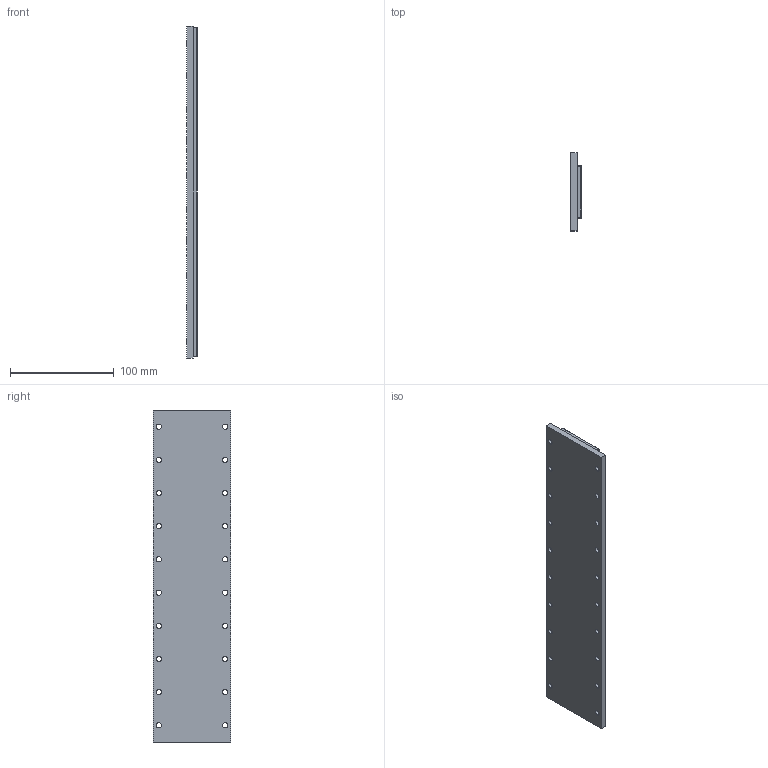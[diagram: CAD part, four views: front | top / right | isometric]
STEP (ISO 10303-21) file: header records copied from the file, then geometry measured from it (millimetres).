
FILE_DESCRIPTION (( 'STEP AP214' ), '1' );
FILE_NAME ('PIXM050-TL320-NC.STEP', '2020-07-30T01:55:06', ( '' ), ( '' ), 'SwSTEP 2.0', 'SolidWorks 2016', '' );
FILE_SCHEMA (( 'AUTOMOTIVE_DESIGN' ));
Length unit declared in the file: inch
Products named in the file (3): PIXM050-TL320-NC; 001SM050000001-CUSTOMER_TL320; 001SM050LXXX01_TL320
Assembly tree (2 placements, depth 2):
  PIXM050-TL320-NC
    001SM050LXXX01_TL320
    001SM050000001-CUSTOMER_TL320
Bounding box: 10 x 75 x 320 mm (x, y, z)
Volume: 202837 mm3; surface area: 88874.2 mm2
Topology: 2 solids, 2 shells, 143 faces, 338 edges, 212 vertices
Faces by surface type: cylinder 92, plane 43, bspline 8
Entity records: 6267 total; most frequent: CARTESIAN_POINT 810, DIRECTION 794, ORIENTED_EDGE 660, EDGE_CURVE 330, AXIS2_PLACEMENT_3D 324, VERTEX_POINT 212, EDGE_LOOP 204, CIRCLE 184
